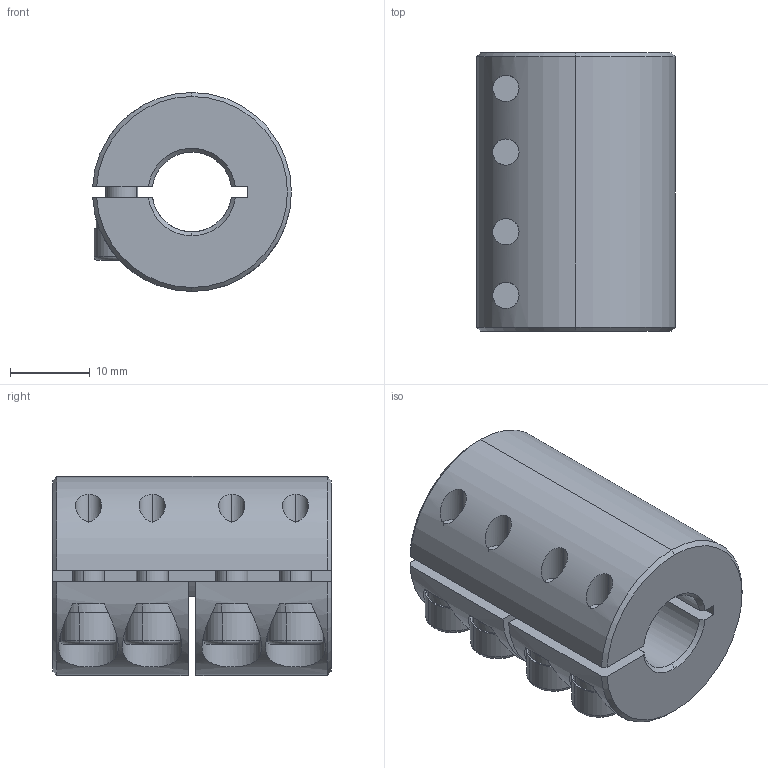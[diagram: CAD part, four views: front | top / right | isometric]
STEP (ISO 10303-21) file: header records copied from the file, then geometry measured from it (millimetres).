
FILE_DESCRIPTION (( 'STEP AP203' ), '1' );
FILE_NAME ('LL-B-D25L35-10-10.STEP', '2021-11-05T07:04:11', ( '' ), ( '' ), 'SwSTEP 2.0', 'SolidWorks 2018', '' );
FILE_SCHEMA (( 'CONFIG_CONTROL_DESIGN' ));
Length unit declared in the file: millimetre
Products named in the file (1): LL-B-D25L35-10-10
Bounding box: 24.98 x 35 x 25 mm (x, y, z)
Volume: 13471 mm3; surface area: 6880.2 mm2
Topology: 1 solids, 1 shells, 187 faces, 478 edges, 297 vertices
Faces by surface type: plane 90, cylinder 69, cone 20, torus 8
Entity records: 6142 total; most frequent: CARTESIAN_POINT 1467, DIRECTION 1011, ORIENTED_EDGE 940, EDGE_CURVE 470, AXIS2_PLACEMENT_3D 393, VERTEX_POINT 297, LINE 225, VECTOR 225
